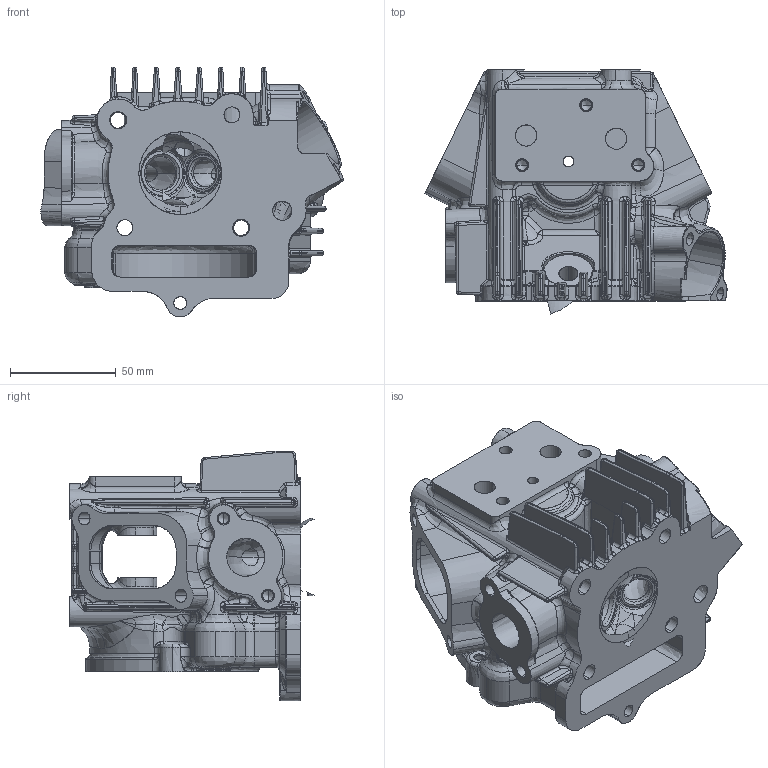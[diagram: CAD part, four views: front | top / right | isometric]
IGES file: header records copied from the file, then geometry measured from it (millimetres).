
Start section: SolidWorks IGES file using analytic representation for surfaces
Bounding box: 142.56 x 115.25 x 117.75 mm (x, y, z)
Surface area: 133182.2 mm2 (no closed solid volume)
Topology: 0 solids, 0 shells, 2420 faces, 23199 edges, 23047 vertices
Faces by surface type: bspline 1609, revolution 811
